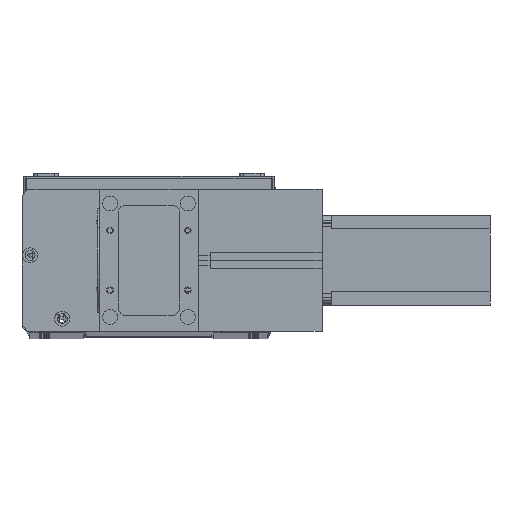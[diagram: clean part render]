
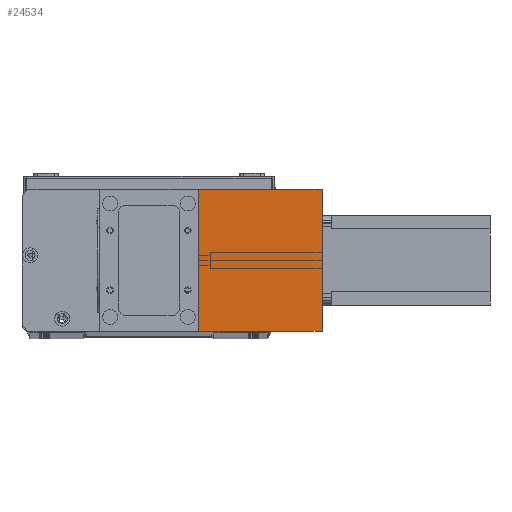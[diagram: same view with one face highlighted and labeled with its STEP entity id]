
A CAD part, top view. The second image highlights one B-rep face of the part: STEP entity #24534.
In plain terms, the highlighted planar face has unit normal (0, 0, 1) as drawn and (1, 0, 0) by its records, which use the part's own axes.
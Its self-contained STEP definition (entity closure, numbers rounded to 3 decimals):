
#3 = CARTESIAN_POINT ( 'NONE',  ( 82., 95., 0. ) ) ;
#1032 = EDGE_CURVE ( 'NONE', #15107, #23376, #10955, .T. ) ;
#1534 = DIRECTION ( 'NONE',  ( 0., 1., 0. ) ) ;
#1704 = CARTESIAN_POINT ( 'NONE',  ( 82., 0., 0. ) ) ;
#1821 = EDGE_CURVE ( 'NONE', #23376, #8468, #28910, .T. ) ;
#2278 = CARTESIAN_POINT ( 'NONE',  ( 82., 95., 83. ) ) ;
#2496 = PLANE ( 'NONE',  #17271 ) ;
#2621 = DIRECTION ( 'NONE',  ( 0., 1., 0. ) ) ;
#2809 = CARTESIAN_POINT ( 'NONE',  ( 82., 0., 83. ) ) ;
#3877 = CARTESIAN_POINT ( 'NONE',  ( 82., 95., 83. ) ) ;
#3918 = DIRECTION ( 'NONE',  ( 0., 0., -1. ) ) ;
#4518 = EDGE_CURVE ( 'NONE', #7931, #8468, #19938, .T. ) ;
#4626 = VECTOR ( 'NONE', #17404, 1000. ) ;
#4966 = DIRECTION ( 'NONE',  ( -1., 0., 0. ) ) ;
#5958 = EDGE_CURVE ( 'NONE', #15107, #7931, #28862, .T. ) ;
#7931 = VERTEX_POINT ( 'NONE', #2278 ) ;
#8468 = VERTEX_POINT ( 'NONE', #3 ) ;
#10272 = ORIENTED_EDGE ( 'NONE', *, *, #1032, .T. ) ;
#10955 = LINE ( 'NONE', #17345, #4626 ) ;
#15107 = VERTEX_POINT ( 'NONE', #18742 ) ;
#15431 = CARTESIAN_POINT ( 'NONE',  ( 82., 0., 0. ) ) ;
#16471 = ORIENTED_EDGE ( 'NONE', *, *, #4518, .F. ) ;
#16730 = CARTESIAN_POINT ( 'NONE',  ( 82., 0., 83. ) ) ;
#17271 = AXIS2_PLACEMENT_3D ( 'NONE', #16730, #4966, #21387 ) ;
#17345 = CARTESIAN_POINT ( 'NONE',  ( 82., 0., 83. ) ) ;
#17404 = DIRECTION ( 'NONE',  ( 0., 0., -1. ) ) ;
#18286 = EDGE_LOOP ( 'NONE', ( #24409, #16471, #21950, #10272 ) ) ;
#18742 = CARTESIAN_POINT ( 'NONE',  ( 82., 0., 83. ) ) ;
#19215 = VECTOR ( 'NONE', #3918, 1000. ) ;
#19938 = LINE ( 'NONE', #3877, #19215 ) ;
#21387 = DIRECTION ( 'NONE',  ( 0., 0., 1. ) ) ;
#21950 = ORIENTED_EDGE ( 'NONE', *, *, #5958, .F. ) ;
#22903 = VECTOR ( 'NONE', #1534, 1000. ) ;
#23376 = VERTEX_POINT ( 'NONE', #15431 ) ;
#24409 = ORIENTED_EDGE ( 'NONE', *, *, #1821, .T. ) ;
#24534 = ADVANCED_FACE ( 'NONE', ( #24730 ), #2496, .F. ) ;
#24730 = FACE_OUTER_BOUND ( 'NONE', #18286, .T. ) ;
#28153 = VECTOR ( 'NONE', #2621, 1000. ) ;
#28862 = LINE ( 'NONE', #2809, #28153 ) ;
#28910 = LINE ( 'NONE', #1704, #22903 ) ;
